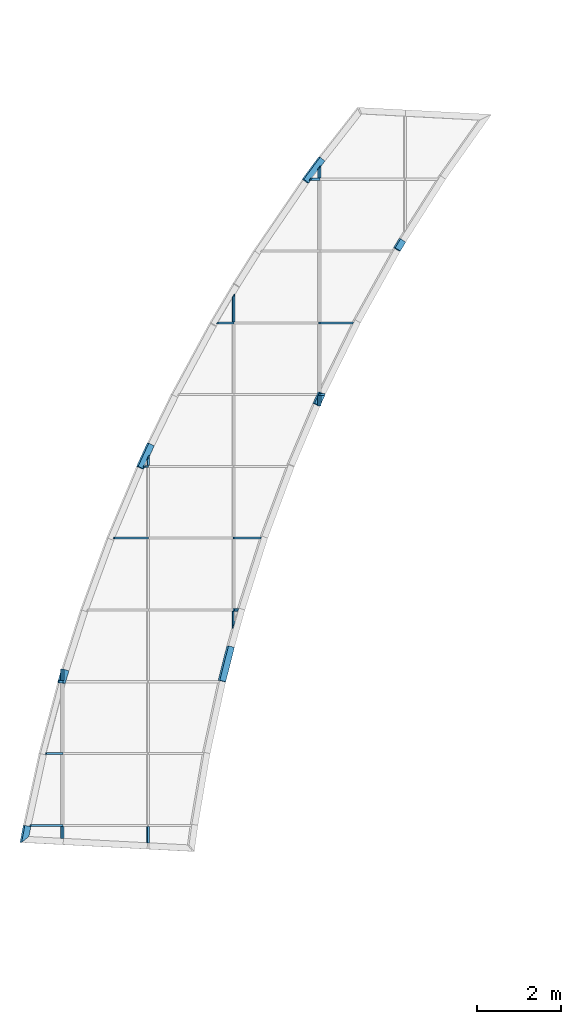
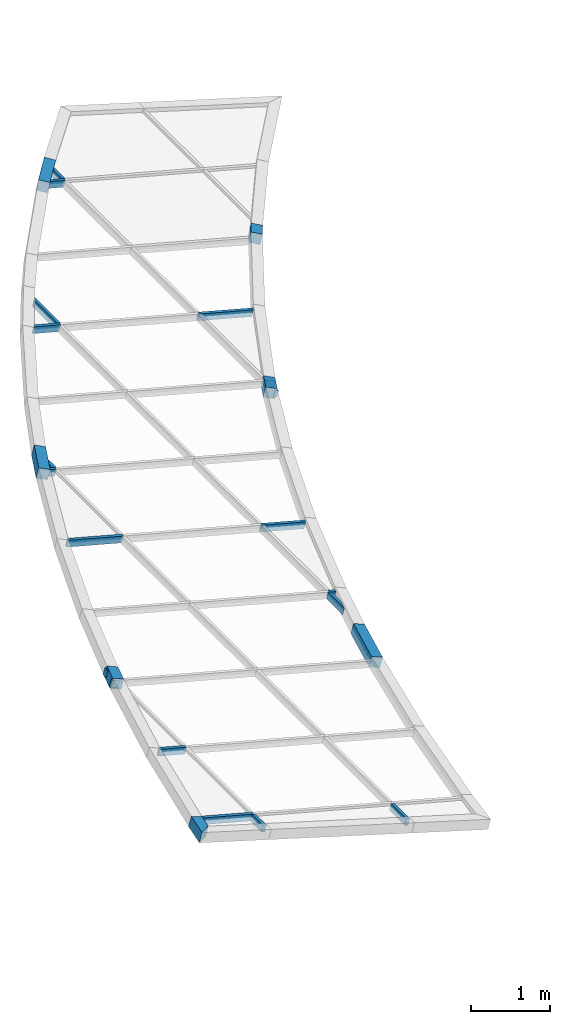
# One storey, part 10 of 33: 26 members, 1 element without a shape of its own.
"""IFC2X3 building model written with IfcOpenShell, lengths in millimetres."""

from ifc_helpers import new_model, entity, si_unit, converted_unit, derived_unit, direction, frame, frame_2d, origin, origin_2d_with_axis, place, context, subcontext, project, spatial, polyline, rectangle, extrude, clip, halfspace, bounded_halfspace, source, transform, mapped, material, type_object, type_shapes, element, aggregate, save


model = new_model("IFC2X3")

# Units and contexts
model_context = context("Model", 3, precision=0.01, world=origin(), true_north=direction((6.12303176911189e-17, 1.0)))
body_context = subcontext(model_context, "Body", "Model", "MODEL_VIEW")
ifc_project = project(units=[si_unit("LENGTHUNIT", "METRE", prefix="MILLI"), si_unit("AREAUNIT", "SQUARE_METRE"), si_unit("VOLUMEUNIT", "CUBIC_METRE"), converted_unit("PLANEANGLEUNIT", "DEGREE", entity("IfcRatioMeasure", 0.0174532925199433), si_unit("PLANEANGLEUNIT", "RADIAN"), dimensions=[0, 0, 0, 0, 0, 0, 0]), si_unit("MASSUNIT", "GRAM", prefix="KILO"), derived_unit("MASSDENSITYUNIT", [(si_unit("MASSUNIT", "GRAM", prefix="KILO"), 1), (si_unit("LENGTHUNIT", "METRE"), -3)]), si_unit("TIMEUNIT", "SECOND"), si_unit("FREQUENCYUNIT", "HERTZ"), si_unit("THERMODYNAMICTEMPERATUREUNIT", "DEGREE_CELSIUS"), derived_unit("THERMALTRANSMITTANCEUNIT", [(si_unit("MASSUNIT", "GRAM", prefix="KILO"), 1), (si_unit("THERMODYNAMICTEMPERATUREUNIT", "KELVIN"), -1), (si_unit("TIMEUNIT", "SECOND"), -3)]), derived_unit("VOLUMETRICFLOWRATEUNIT", [(si_unit("LENGTHUNIT", "METRE"), 3), (si_unit("TIMEUNIT", "SECOND"), -1)]), si_unit("ELECTRICCURRENTUNIT", "AMPERE"), si_unit("ELECTRICVOLTAGEUNIT", "VOLT"), si_unit("POWERUNIT", "WATT"), si_unit("FORCEUNIT", "NEWTON", prefix="KILO"), si_unit("ILLUMINANCEUNIT", "LUX"), si_unit("LUMINOUSFLUXUNIT", "LUMEN"), si_unit("LUMINOUSINTENSITYUNIT", "CANDELA"), derived_unit("USERDEFINED", [(si_unit("MASSUNIT", "GRAM", prefix="KILO"), -1), (si_unit("LENGTHUNIT", "METRE"), -2), (si_unit("TIMEUNIT", "SECOND"), 3), (si_unit("LUMINOUSFLUXUNIT", "LUMEN"), 1)]), derived_unit("LINEARVELOCITYUNIT", [(si_unit("LENGTHUNIT", "METRE"), 1), (si_unit("TIMEUNIT", "SECOND"), -1)]), si_unit("PRESSUREUNIT", "PASCAL"), derived_unit("USERDEFINED", [(si_unit("LENGTHUNIT", "METRE"), -2), (si_unit("MASSUNIT", "GRAM", prefix="KILO"), 1), (si_unit("TIMEUNIT", "SECOND"), -2)])], contexts=[model_context])

# Site, building, storey
site_placement = place(None, origin())
site = spatial("IfcSite", under=ifc_project, at=site_placement, Name="表面", CompositionType="ELEMENT")
building_placement = place(site_placement, origin())
building = spatial("IfcBuilding", under=site, at=building_placement, CompositionType="ELEMENT")
storey_placement = place(building_placement, frame((0.0, 0.0, 6000.0)))
storey = spatial("IfcBuildingStorey", under=building, at=storey_placement, Name="3F", CompositionType="ELEMENT", Elevation=6000.00000000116)

# Curtain wall, members
curtain_wall_type = type_object("IfcCurtainWallType", Name="幕墙系统:1700 x 2100mm", PredefinedType="NOTDEFINED")
curtain_wall_placement = place(storey_placement, frame((0.0, 0.0, -6000.0)))
curtain_wall = element("IfcCurtainWall", 1, at=curtain_wall_placement, inside=storey, type_object=curtain_wall_type, Name="幕墙系统:1700 x 2100mm", ObjectType="幕墙系统:1700 x 2100mm")
ifc_material_1 = material(Name="木质 - 木材")
member_type_1 = type_object("IfcMemberType", Name="200 x 150mm", PredefinedType="MEMBER")
shared_shape_1 = source(origin(), body_context, "Body", "Clipping", [
    clip(clip(extrude(rectangle(XDim=150.0, YDim=150.0, at=frame_2d((0.0, -1.4210854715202e-14), x_axis=(1.0, 0.0))), frame((-75.0, 0.0, -250.729494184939), z_axis=(0.0, 0.0, 1.0), x_axis=(0.0, -1.0, 0.0)), (0.0, 0.0, 1.0), 253.001877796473), halfspace(frame((0.0, 304.8, -248.643862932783), z_axis=(0.0139028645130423, 0.0, -0.999903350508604), x_axis=(0.999903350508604, 0.0, 0.0139028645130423)), False)), halfspace(frame((0.0, 304.8, 0.0), z_axis=(0.015147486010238, 0.0, 0.999885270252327), x_axis=(0.999885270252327, 0.0, -0.015147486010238)), False)),
])
type_shapes(member_type_1, [shared_shape_1])
member_1_placement = place(storey_placement, frame((-35008.2856772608, -294.372686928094, 1216.26865272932), z_axis=(-0.507435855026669, -0.850894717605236, 0.135967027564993), x_axis=(0.821901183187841, -0.525336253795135, -0.220227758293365)))
member_1 = element("IfcMember", 2, at=member_1_placement, type_object=member_type_1, material=ifc_material_1, Name="矩形竖梃:200 x 150mm", ObjectType="200 x 150mm", context=body_context, shape_type="MappedRepresentation", body=[
    mapped(shared_shape_1, transform((0.0, 0.0, 0.0), scale=1.0)),
])
member_type_2 = type_object("IfcMemberType", Name="200 x 150mm", PredefinedType="MEMBER")
shared_shape_2 = source(origin(), body_context, "Body", "Clipping", [
    clip(clip(extrude(rectangle(XDim=150.0, YDim=150.0, at=frame_2d((-7.105427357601e-15, -1.4210854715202e-14), x_axis=(1.0, 0.0))), frame((-75.0, 0.0, -841.986050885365), z_axis=(0.0, 0.0, 1.0), x_axis=(0.0, -1.0, 0.0)), (0.0, 0.0, 1.0), 844.640764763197), halfspace(frame((0.0, 304.800000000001, -840.173286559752), z_axis=(0.0120842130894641, 0.0, -0.99992698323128), x_axis=(0.99992698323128, 0.0, 0.0120842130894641)), False)), halfspace(frame((0.0, 304.8, 0.0), z_axis=(0.0176953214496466, 0.0, 0.999843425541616), x_axis=(0.999843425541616, 0.0, -0.0176953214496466)), False)),
])
type_shapes(member_type_2, [shared_shape_2])
member_2_placement = place(storey_placement, frame((-39145.1803416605, -10494.3726869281, 2324.74623722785), z_axis=(-0.24539819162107, -0.967189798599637, 0.0657542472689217), x_axis=(0.934233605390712, -0.254054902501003, -0.250327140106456)))
member_2 = element("IfcMember", 3, at=member_2_placement, type_object=member_type_2, material=ifc_material_1, Name="矩形竖梃:200 x 150mm", ObjectType="200 x 150mm", context=body_context, shape_type="MappedRepresentation", body=[
    mapped(shared_shape_2, transform((0.0, 0.0, 0.0), scale=1.0)),
])
member_type_3 = type_object("IfcMemberType", Name="200 x 150mm", PredefinedType="MEMBER")
shared_shape_3 = source(origin(), body_context, "Body", "Clipping", [
    clip(clip(extrude(rectangle(XDim=150.0, YDim=150.0, at=frame_2d((-7.105427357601e-15, 3.5527136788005e-14), x_axis=(1.0, 0.0))), frame((-75.0, 0.0, -299.632134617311), z_axis=(0.0, 0.0, 1.0), x_axis=(0.0, -1.0, 0.0)), (0.0, 0.0, 1.0), 301.544242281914), halfspace(frame((0.0, 304.8, -297.366789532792), z_axis=(0.0151005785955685, 0.0, -0.999885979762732), x_axis=(0.999885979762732, 0.0, 0.0151005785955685)), False)), halfspace(frame((0.0, 304.8, 0.0), z_axis=(0.0127463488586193, 0.0, 0.999918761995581), x_axis=(0.999918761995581, 0.0, -0.0127463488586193)), False)),
])
type_shapes(member_type_3, [shared_shape_3])
member_3_placement = place(storey_placement, frame((-36910.5591012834, -3963.46701655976, 1725.98128047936), z_axis=(-0.411072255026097, -0.904923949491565, 0.110146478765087), x_axis=(0.874089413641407, -0.425573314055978, -0.234211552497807)))
member_3 = element("IfcMember", 4, at=member_3_placement, type_object=member_type_3, material=ifc_material_1, Name="矩形竖梃:200 x 150mm", ObjectType="200 x 150mm", context=body_context, shape_type="MappedRepresentation", body=[
    mapped(shared_shape_3, transform((0.0, 0.0, 0.0), scale=1.0)),
])
member_type_4 = type_object("IfcMemberType", Name="200 x 150mm", PredefinedType="MEMBER")
shared_shape_4 = source(origin(), body_context, "Body", "Clipping", [
    clip(clip(extrude(rectangle(XDim=150.0, YDim=150.0, at=origin_2d_with_axis()), frame((-75.0, 0.0, -413.468004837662), z_axis=(0.0, 0.0, 1.0), x_axis=(0.0, -1.0, 0.0)), (0.0, 0.0, 1.0), 413.46800483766), halfspace(frame((0.0, -304.799999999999, -413.468004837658), z_axis=(-0.755376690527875, 0.0, -0.655290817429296), x_axis=(-0.655290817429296, 0.0, 0.755376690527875)), False)), halfspace(frame((0.0, -304.8, 0.0), z_axis=(-0.0142015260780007, 0.0, 0.999899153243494), x_axis=(-0.999899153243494, 0.0, -0.0142015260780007)), False)),
])
type_shapes(member_type_4, [shared_shape_4])
placement = place(building_placement, frame((0.0, 0.0, 9000.0)))
member_4_placement = place(placement, frame((-43901.6459743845, -13894.3726869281, 599.237362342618), z_axis=(0.184548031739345, 0.981578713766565, -0.0494494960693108), x_axis=(-0.948132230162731, 0.191058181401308, 0.254051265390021)))
member_4 = element("IfcMember", 5, at=member_4_placement, type_object=member_type_4, material=ifc_material_1, Name="矩形竖梃:200 x 150mm", ObjectType="200 x 150mm", context=body_context, shape_type="MappedRepresentation", body=[
    mapped(shared_shape_4, transform((0.0, 0.0, 0.0), scale=1.0)),
])
member_type_5 = type_object("IfcMemberType", Name="200 x 150mm", PredefinedType="MEMBER")
shared_shape_5 = source(origin(), body_context, "Body", "Clipping", [
    clip(clip(extrude(rectangle(XDim=150.0, YDim=150.0, at=frame_2d((-7.105427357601e-15, 1.4210854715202e-14), x_axis=(1.0, 0.0))), frame((-75.0, 0.0, -658.268199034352), z_axis=(0.0, 0.0, 1.0), x_axis=(0.0, -1.0, 0.0)), (0.0, 0.0, 1.0), 658.268199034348), halfspace(frame((0.0, -304.800000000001, -658.268199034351), z_axis=(-0.0180534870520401, 0.0, -0.999837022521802), x_axis=(-0.999837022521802, 0.0, 0.0180534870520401)), False)), halfspace(frame((0.0, -304.8, 0.0), z_axis=(-0.0143069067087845, 0.0, 0.999897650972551), x_axis=(-0.999897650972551, 0.0, -0.0143069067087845)), False)),
])
type_shapes(member_type_5, [shared_shape_5])
member_5_placement = place(storey_placement, frame((-36910.5591012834, 1929.01387802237, 1725.98128047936), z_axis=(0.585817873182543, 0.795096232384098, -0.156969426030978), x_axis=(-0.768003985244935, 0.606483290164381, 0.205786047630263)))
member_5 = element("IfcMember", 6, at=member_5_placement, type_object=member_type_5, material=ifc_material_1, Name="矩形竖梃:200 x 150mm", ObjectType="200 x 150mm", context=body_context, shape_type="MappedRepresentation", body=[
    mapped(shared_shape_5, transform((0.0, 0.0, 0.0), scale=1.0)),
])
member_type_6 = type_object("IfcMemberType", Name="200 x 150mm", PredefinedType="MEMBER")
shared_shape_6 = source(origin(), body_context, "Body", "Clipping", [
    clip(clip(extrude(rectangle(XDim=150.0, YDim=150.0, at=frame_2d((0.0, -1.4210854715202e-14), x_axis=(1.0, 0.0))), frame((-75.0, 0.0, -609.557783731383), z_axis=(0.0, 0.0, 1.0), x_axis=(0.0, -1.0, 0.0)), (0.0, 0.0, 1.0), 609.557783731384), halfspace(frame((0.0, -304.8, -609.557783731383), z_axis=(-0.0162241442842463, 0.0, -0.999868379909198), x_axis=(-0.999868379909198, 0.0, 0.0162241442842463)), False)), halfspace(frame((0.0, -304.8, 0.0), z_axis=(-0.0124919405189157, 0.0, 0.999921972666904), x_axis=(-0.999921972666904, 0.0, -0.0124919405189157)), False)),
])
type_shapes(member_type_6, [shared_shape_6])
member_6_placement = place(storey_placement, frame((-40967.4475716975, -4843.36777402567, 2813.02126990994), z_axis=(0.413082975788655, 0.903942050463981, -0.110685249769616), x_axis=(-0.873140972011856, 0.42765496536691, 0.233957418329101)))
member_6 = element("IfcMember", 7, at=member_6_placement, type_object=member_type_6, material=ifc_material_1, Name="矩形竖梃:200 x 150mm", ObjectType="200 x 150mm", context=body_context, shape_type="MappedRepresentation", body=[
    mapped(shared_shape_6, transform((0.0, 0.0, 0.0), scale=1.0)),
])
member_type_7 = type_object("IfcMemberType", Name="200 x 150mm", PredefinedType="MEMBER")
shared_shape_7 = source(origin(), body_context, "Body", "Clipping", [
    clip(clip(extrude(rectangle(XDim=150.0, YDim=150.0, at=frame_2d((7.105427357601e-15, -1.4210854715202e-14), x_axis=(1.0, 0.0))), frame((-75.0, 0.0, -316.309727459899), z_axis=(0.0, 0.0, 1.0), x_axis=(0.0, -1.0, 0.0)), (0.0, 0.0, 1.0), 316.309727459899), halfspace(frame((0.0, -304.8, -316.309727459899), z_axis=(-0.0136941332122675, 0.0, -0.999906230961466), x_axis=(-0.999906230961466, 0.0, 0.0136941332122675)), False)), halfspace(frame((0.0, -304.8, 0.0), z_axis=(-0.0117739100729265, 0.0, 0.999930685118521), x_axis=(-0.999930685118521, 0.0, -0.0117739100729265)), False)),
])
type_shapes(member_type_7, [shared_shape_7])
member_7_placement = place(placement, frame((-42995.8918069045, -10191.6544195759, 356.541264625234), z_axis=(0.28010407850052, 0.957031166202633, -0.0750536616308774), x_axis=(-0.92442111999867, 0.289985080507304, 0.247697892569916)))
member_7 = element("IfcMember", 8, at=member_7_placement, type_object=member_type_7, material=ifc_material_1, Name="矩形竖梃:200 x 150mm", ObjectType="200 x 150mm", context=body_context, shape_type="MappedRepresentation", body=[
    mapped(shared_shape_7, transform((0.0, 0.0, 0.0), scale=1.0)),
])
ifc_material_2 = material(Name="金属 - 铝")
member_type_8 = type_object("IfcMemberType", Name="50 x 100mm", PredefinedType="MEMBER")
shared_shape_8 = source(origin(), body_context, "Body", "Clipping", [
    clip(extrude(rectangle(XDim=100.0, YDim=50.0, at=origin_2d_with_axis()), frame((0.0, 0.0, -498.386564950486), z_axis=(0.0, 0.0, 1.0), x_axis=(0.0, -1.0, 0.0)), (0.0, 0.0, 1.0), 283.833919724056), halfspace(frame((-117.962766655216, 75.0, -92.6789733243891), z_axis=(0.795096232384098, 0.0, 0.606483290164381), x_axis=(0.606483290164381, 0.0, -0.795096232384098)), False)),
])
type_shapes(member_type_8, [shared_shape_8])
member_8_placement = place(storey_placement, frame((-36910.5591012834, 1929.01387802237, 1725.98128047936), z_axis=(0.0, 1.0, 0.0), x_axis=(-0.965925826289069, 0.0, 0.258819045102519)))
member_8 = element("IfcMember", 9, at=member_8_placement, type_object=member_type_8, material=ifc_material_2, Name="矩形竖梃:50 x 100mm", ObjectType="50 x 100mm", context=body_context, shape_type="MappedRepresentation", body=[
    mapped(shared_shape_8, transform((0.0, 0.0, 0.0), scale=1.0)),
])
member_type_9 = type_object("IfcMemberType", Name="50 x 100mm", PredefinedType="MEMBER")
shared_shape_9 = source(origin(), body_context, "Body", "SweptSolid", [
    extrude(rectangle(XDim=100.0, YDim=50.0, at=origin_2d_with_axis()), frame((0.0, 0.0, -244.094329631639), z_axis=(0.0, 0.0, 1.0), x_axis=(0.0, -1.0, 0.0)), (0.0, 0.0, 1.0), 244.094329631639),
])
type_shapes(member_type_9, [shared_shape_9])
member_9_placement = place(storey_placement, frame((-36910.5591012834, -3719.37268692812, 1725.98128047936), z_axis=(0.0, 1.0, 0.0), x_axis=(-0.965925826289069, 0.0, 0.258819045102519)))
member_9 = element("IfcMember", 10, at=member_9_placement, type_object=member_type_9, material=ifc_material_2, Name="矩形竖梃:50 x 100mm", ObjectType="50 x 100mm", context=body_context, shape_type="MappedRepresentation", body=[
    mapped(shared_shape_9, transform((0.0, 0.0, 0.0), scale=1.0)),
])
member_type_10 = type_object("IfcMemberType", Name="50 x 100mm", PredefinedType="MEMBER")
shared_shape_10 = source(origin(), body_context, "Body", "Clipping", [
    clip(extrude(rectangle(XDim=100.0, YDim=50.0, at=origin_2d_with_axis()), frame((0.0, 0.0, -907.359284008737), z_axis=(0.0, 0.0, 1.0), x_axis=(0.0, -1.0, 0.0)), (0.0, 0.0, 1.0), 660.990668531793), halfspace(frame((-126.876412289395, 75.0, -80.0394679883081), z_axis=(0.852754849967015, 0.0, 0.52231136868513), x_axis=(0.52231136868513, 0.0, -0.852754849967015)), False)),
])
type_shapes(member_type_10, [shared_shape_10])
member_10_placement = place(storey_placement, frame((-38939.0033364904, -1062.01340291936, 2269.50127519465), z_axis=(0.0, 1.0, 0.0), x_axis=(-0.965925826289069, 0.0, 0.258819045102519)))
member_10 = element("IfcMember", 11, at=member_10_placement, type_object=member_type_10, material=ifc_material_2, Name="矩形竖梃:50 x 100mm", ObjectType="50 x 100mm", context=body_context, shape_type="MappedRepresentation", body=[
    mapped(shared_shape_10, transform((0.0, 0.0, 0.0), scale=1.0)),
])
member_type_11 = type_object("IfcMemberType", Name="50 x 100mm", PredefinedType="MEMBER")
shared_shape_11 = source(origin(), body_context, "Body", "Clipping", [
    clip(extrude(rectangle(XDim=100.0, YDim=50.0, at=origin_2d_with_axis()), frame((0.0, 0.0, -408.169835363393), z_axis=(0.0, 0.0, 1.0), x_axis=(0.0, -1.0, 0.0)), (0.0, 0.0, 1.0), 408.169835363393), halfspace(frame((144.617928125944, 75.0, -822.531445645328), z_axis=(-0.960767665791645, 0.0, -0.27735445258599), x_axis=(-0.27735445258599, 0.0, 0.960767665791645)), False)),
])
type_shapes(member_type_11, [shared_shape_11])
member_11_placement = place(storey_placement, frame((-38939.0033364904, -8819.3726869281, 2269.50127519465), z_axis=(0.0, 1.0, 0.0), x_axis=(-0.965925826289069, 0.0, 0.258819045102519)))
member_11 = element("IfcMember", 12, at=member_11_placement, type_object=member_type_11, material=ifc_material_2, Name="矩形竖梃:50 x 100mm", ObjectType="50 x 100mm", context=body_context, shape_type="MappedRepresentation", body=[
    mapped(shared_shape_11, transform((0.0, 0.0, 0.0), scale=1.0)),
])
member_type_12 = type_object("IfcMemberType", Name="50 x 100mm", PredefinedType="MEMBER")
shared_shape_12 = source(origin(), body_context, "Body", "Clipping", [
    clip(extrude(rectangle(XDim=100.0, YDim=50.0, at=origin_2d_with_axis()), frame((0.0, 0.0, -526.004912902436), z_axis=(0.0, 0.0, 1.0), x_axis=(0.0, -1.0, 0.0)), (0.0, 0.0, 1.0), 228.097817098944), halfspace(frame((-134.789908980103, 75.0, -65.8421755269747), z_axis=(0.903942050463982, 0.0, 0.427654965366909), x_axis=(0.427654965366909, 0.0, -0.903942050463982)), False)),
])
type_shapes(member_type_12, [shared_shape_12])
member_12_placement = place(storey_placement, frame((-40967.4475716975, -4843.36777402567, 2813.02126990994), z_axis=(0.0, 1.0, 0.0), x_axis=(-0.965925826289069, 0.0, 0.258819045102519)))
member_12 = element("IfcMember", 13, at=member_12_placement, type_object=member_type_12, material=ifc_material_2, Name="矩形竖梃:50 x 100mm", ObjectType="50 x 100mm", context=body_context, shape_type="MappedRepresentation", body=[
    mapped(shared_shape_12, transform((0.0, 0.0, 0.0), scale=1.0)),
])
member_type_13 = type_object("IfcMemberType", Name="50 x 100mm", PredefinedType="MEMBER")
shared_shape_13 = source(origin(), body_context, "Body", "Clipping", [
    clip(clip(extrude(rectangle(XDim=100.0, YDim=50.0, at=origin_2d_with_axis()), frame((0.0, 0.0, -389.698654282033), z_axis=(0.0, 0.0, 1.0), x_axis=(0.0, -1.0, 0.0)), (0.0, 0.0, 1.0), 389.698654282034), bounded_halfspace(frame((-7.58359352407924, 75.0, -388.817000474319), z_axis=(0.0505572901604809, 0.0, -0.99872116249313), x_axis=(-0.99872116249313, 0.0, -0.0505572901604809)), False, frame((0.0, 0.0, -389.698654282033), z_axis=(0.0, 0.0, 1.0), x_axis=(0.0, -1.0, 0.0)), polyline([(50.0, -7.58359352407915), (50.0, -25.0), (-50.0, -25.0), (-50.0, -7.58359352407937), (50.0, -7.58359352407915)]))), bounded_halfspace(frame((2092.41640647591, 75.0, -282.510742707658), z_axis=(0.0505572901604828, 0.0, -0.99872116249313), x_axis=(-0.99872116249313, 0.0, -0.0505572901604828)), False, frame((0.0, 0.0, -389.698654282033), z_axis=(0.0, 0.0, 1.0), x_axis=(0.0, -1.0, 0.0)), polyline([(-50.0, 25.0), (50.0, 25.0), (50.0, -7.5835935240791), (-50.0, -7.58359352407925), (-50.0, 25.0)]))),
])
type_shapes(member_type_13, [shared_shape_13])
member_13_placement = place(storey_placement, frame((-40967.4475716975, -13919.3726869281, 2813.02126990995), z_axis=(0.0, 1.0, 0.0), x_axis=(-0.965925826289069, 0.0, 0.258819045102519)))
member_13 = element("IfcMember", 14, at=member_13_placement, type_object=member_type_13, material=ifc_material_2, Name="矩形竖梃:50 x 100mm", ObjectType="50 x 100mm", context=body_context, shape_type="MappedRepresentation", body=[
    mapped(shared_shape_13, transform((0.0, 0.0, 0.0), scale=1.0)),
])
member_type_14 = type_object("IfcMemberType", Name="50 x 100mm", PredefinedType="MEMBER")
shared_shape_14 = source(origin(), body_context, "Body", "SweptSolid", [
    extrude(rectangle(XDim=100.0, YDim=50.0, at=origin_2d_with_axis()), frame((0.0, 0.0, -277.718267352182), z_axis=(0.0, 0.0, 1.0), x_axis=(0.0, -1.0, 0.0)), (0.0, 0.0, 1.0), 277.718267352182),
])
type_shapes(member_type_14, [shared_shape_14])
member_14_placement = place(placement, frame((-42995.8918069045, -10191.6544195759, 356.541264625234), z_axis=(0.0, 1.0, 0.0), x_axis=(-0.965925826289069, 0.0, 0.258819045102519)))
member_14 = element("IfcMember", 15, at=member_14_placement, type_object=member_type_14, material=ifc_material_2, Name="矩形竖梃:50 x 100mm", ObjectType="50 x 100mm", context=body_context, shape_type="MappedRepresentation", body=[
    mapped(shared_shape_14, transform((0.0, 0.0, 0.0), scale=1.0)),
])
member_type_15 = type_object("IfcMemberType", Name="50 x 100mm", PredefinedType="MEMBER")
shared_shape_15 = source(origin(), body_context, "Body", "Clipping", [
    clip(clip(extrude(rectangle(XDim=100.0, YDim=50.0, at=origin_2d_with_axis()), frame((0.0, 0.0, -283.39239651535), z_axis=(0.0, 0.0, 1.0), x_axis=(0.0, -1.0, 0.0)), (0.0, 0.0, 1.0), 283.392396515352), bounded_halfspace(frame((-7.58359352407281, 75.0, -282.510742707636), z_axis=(0.0505572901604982, 0.0, -0.998721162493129), x_axis=(-0.998721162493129, 0.0, -0.0505572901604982)), False, frame((0.0, 0.0, -283.39239651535), z_axis=(0.0, 0.0, 1.0), x_axis=(0.0, -1.0, 0.0)), polyline([(50.0, -7.58359352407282), (50.0, -25.0), (-50.0, -25.0), (-50.0, -7.5835935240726), (50.0, -7.58359352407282)]))), bounded_halfspace(frame((1009.11856644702, 75.0, -231.043217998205), z_axis=(0.0505572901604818, 0.0, -0.99872116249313), x_axis=(-0.99872116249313, 0.0, -0.0505572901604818)), False, frame((0.0, 0.0, -283.39239651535), z_axis=(0.0, 0.0, 1.0), x_axis=(0.0, -1.0, 0.0)), polyline([(-50.0, 25.0), (50.0, 25.0), (50.0, -7.58359352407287), (-50.0, -7.58359352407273), (-50.0, 25.0)]))),
])
type_shapes(member_type_15, [shared_shape_15])
member_15_placement = place(placement, frame((-42995.8918069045, -13919.3726869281, 356.541264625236), z_axis=(0.0, 1.0, 0.0), x_axis=(-0.965925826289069, 0.0, 0.258819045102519)))
member_15 = element("IfcMember", 16, at=member_15_placement, type_object=member_type_15, material=ifc_material_2, Name="矩形竖梃:50 x 100mm", ObjectType="50 x 100mm", context=body_context, shape_type="MappedRepresentation", body=[
    mapped(shared_shape_15, transform((0.0, 0.0, 0.0), scale=1.0)),
])
member_type_16 = type_object("IfcMemberType", Name="50 x 100mm", PredefinedType="MEMBER")
shared_shape_16 = source(origin(), body_context, "Body", "Clipping", [
    clip(extrude(rectangle(XDim=100.0, YDim=50.0, at=origin_2d_with_axis()), frame((0.0, 0.0, -399.228663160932), z_axis=(0.0, 0.0, 1.0), x_axis=(0.0, -1.0, 0.0)), (0.0, 0.0, 1.0), 229.641747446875), halfspace(frame((-432.414071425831, 75.0, -518.493098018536), z_axis=(-0.606483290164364, 0.0, 0.795096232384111), x_axis=(0.795096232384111, 0.0, 0.606483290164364)), False)),
])
type_shapes(member_type_16, [shared_shape_16])
member_16_placement = place(storey_placement, frame((-37296.1843776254, 1405.62731307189, 1829.30926185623), z_axis=(-0.965925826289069, 0.0, 0.258819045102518), x_axis=(0.0, -1.0, 0.0)))
member_16 = element("IfcMember", 17, at=member_16_placement, type_object=member_type_16, material=ifc_material_2, Name="矩形竖梃:50 x 100mm", ObjectType="50 x 100mm", context=body_context, shape_type="MappedRepresentation", body=[
    mapped(shared_shape_16, transform((0.0, 0.0, 0.0), scale=1.0)),
])
member_type_17 = type_object("IfcMemberType", Name="50 x 100mm", PredefinedType="MEMBER")
shared_shape_17 = source(origin(), body_context, "Body", "Clipping", [
    clip(extrude(rectangle(XDim=100.0, YDim=50.0, at=origin_2d_with_axis()), frame((0.0, 0.0, -571.068993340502), z_axis=(0.0, 0.0, 1.0), x_axis=(0.0, -1.0, 0.0)), (0.0, 0.0, 1.0), 410.480969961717), halfspace(frame((-854.012578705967, 75.0, -698.982220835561), z_axis=(-0.522311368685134, 0.0, 0.852754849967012), x_axis=(0.852754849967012, 0.0, 0.522311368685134)), False)),
])
type_shapes(member_type_17, [shared_shape_17])
member_17_placement = place(storey_placement, frame((-39490.6136257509, -1994.3726869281, 2417.3048067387), z_axis=(-0.965925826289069, 0.0, 0.25881904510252), x_axis=(0.0, -1.0, 0.0)))
member_17 = element("IfcMember", 18, at=member_17_placement, type_object=member_type_17, material=ifc_material_2, Name="矩形竖梃:50 x 100mm", ObjectType="50 x 100mm", context=body_context, shape_type="MappedRepresentation", body=[
    mapped(shared_shape_17, transform((0.0, 0.0, 0.0), scale=1.0)),
])
member_type_18 = type_object("IfcMemberType", Name="50 x 100mm", PredefinedType="MEMBER")
shared_shape_18 = source(origin(), body_context, "Body", "Clipping", [
    clip(extrude(rectangle(XDim=100.0, YDim=50.0, at=origin_2d_with_axis()), frame((0.0, 0.0, -260.68041289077), z_axis=(0.0, 0.0, 1.0), x_axis=(0.0, -1.0, 0.0)), (0.0, 0.0, 1.0), 106.568071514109), halfspace(frame((-486.856668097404, 75.0, -396.271720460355), z_axis=(-0.42765496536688, 0.0, 0.903942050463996), x_axis=(0.903942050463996, 0.0, 0.42765496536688)), False)),
])
type_shapes(member_type_18, [shared_shape_18])
member_18_placement = place(storey_placement, frame((-41219.2455149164, -5394.3726869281, 2880.49032545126), z_axis=(-0.96592582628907, 0.0, 0.258819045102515), x_axis=(0.0, -1.0, 0.0)))
member_18 = element("IfcMember", 19, at=member_18_placement, type_object=member_type_18, material=ifc_material_2, Name="矩形竖梃:50 x 100mm", ObjectType="50 x 100mm", context=body_context, shape_type="MappedRepresentation", body=[
    mapped(shared_shape_18, transform((0.0, 0.0, 0.0), scale=1.0)),
])
member_type_19 = type_object("IfcMemberType", Name="50 x 100mm", PredefinedType="MEMBER")
shared_shape_19 = source(origin(), body_context, "Body", "Clipping", [
    clip(extrude(rectangle(XDim=100.0, YDim=50.0, at=origin_2d_with_axis()), frame((0.0, 0.0, -998.436518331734), z_axis=(0.0, 0.0, 1.0), x_axis=(0.0, -1.0, 0.0)), (0.0, 0.0, 1.0), 845.769801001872), halfspace(frame((-1640.2846525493, 75.0, -875.357258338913), z_axis=(-0.398102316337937, 0.0, 0.917341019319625), x_axis=(0.917341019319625, 0.0, 0.398102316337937)), False)),
])
type_shapes(member_type_19, [shared_shape_19])
member_19_placement = place(storey_placement, frame((-41931.8631906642, -7094.37268692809, 3071.43565618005), z_axis=(-0.965925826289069, 0.0, 0.258819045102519), x_axis=(0.0, -1.0, 0.0)))
member_19 = element("IfcMember", 20, at=member_19_placement, type_object=member_type_19, material=ifc_material_2, Name="矩形竖梃:50 x 100mm", ObjectType="50 x 100mm", context=body_context, shape_type="MappedRepresentation", body=[
    mapped(shared_shape_19, transform((0.0, 0.0, 0.0), scale=1.0)),
])
member_type_20 = type_object("IfcMemberType", Name="50 x 100mm", PredefinedType="MEMBER")
shared_shape_20 = source(origin(), body_context, "Body", "SweptSolid", [
    extrude(rectangle(XDim=100.0, YDim=50.0, at=origin_2d_with_axis()), frame((0.0, 0.0, -91.7251017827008), z_axis=(0.0, 0.0, 1.0), x_axis=(0.0, -1.0, 0.0)), (0.0, 0.0, 1.0), 91.7251017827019),
])
type_shapes(member_type_20, [shared_shape_20])
member_20_placement = place(placement, frame((-43084.4914516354, -10494.3726869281, 380.281467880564), z_axis=(-0.965925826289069, 0.0, 0.258819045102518), x_axis=(0.0, -1.0, 0.0)))
member_20 = element("IfcMember", 21, at=member_20_placement, type_object=member_type_20, material=ifc_material_2, Name="矩形竖梃:50 x 100mm", ObjectType="50 x 100mm", context=body_context, shape_type="MappedRepresentation", body=[
    mapped(shared_shape_20, transform((0.0, 0.0, 0.0), scale=1.0)),
])
member_type_21 = type_object("IfcMemberType", Name="50 x 100mm", PredefinedType="MEMBER")
shared_shape_21 = source(origin(), body_context, "Body", "Clipping", [
    clip(extrude(rectangle(XDim=100.0, YDim=50.0, at=origin_2d_with_axis()), frame((0.0, 0.0, -556.402841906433), z_axis=(0.0, 0.0, 1.0), x_axis=(0.0, -1.0, 0.0)), (0.0, 0.0, 1.0), 407.733668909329), halfspace(frame((-1660.44989714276, 75.0, -609.3697902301), z_axis=(-0.263667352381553, 0.0, 0.964613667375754), x_axis=(0.964613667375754, 0.0, 0.263667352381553)), False)),
])
type_shapes(member_type_21, [shared_shape_21])
member_21_placement = place(placement, frame((-43533.3356817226, -12194.3726869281, 500.548916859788), z_axis=(-0.965925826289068, 0.0, 0.258819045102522), x_axis=(0.0, -1.0, 0.0)))
member_21 = element("IfcMember", 22, at=member_21_placement, type_object=member_type_21, material=ifc_material_2, Name="矩形竖梃:50 x 100mm", ObjectType="50 x 100mm", context=body_context, shape_type="MappedRepresentation", body=[
    mapped(shared_shape_21, transform((0.0, 0.0, 0.0), scale=1.0)),
])
member_type_22 = type_object("IfcMemberType", Name="50 x 100mm", PredefinedType="MEMBER")
shared_shape_22 = source(origin(), body_context, "Body", "Clipping", [
    clip(extrude(rectangle(XDim=100.0, YDim=50.0, at=origin_2d_with_axis()), frame((0.0, 0.0, -937.705714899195), z_axis=(0.0, 0.0, 1.0), x_axis=(0.0, -1.0, 0.0)), (0.0, 0.0, 1.0), 789.586262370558), halfspace(frame((-1667.17127979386, 75.0, -527.666376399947), z_axis=(-0.218858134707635, 0.0, 0.975756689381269), x_axis=(0.975756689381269, 0.0, 0.218858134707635)), False)),
])
type_shapes(member_type_22, [shared_shape_22])
member_22_placement = place(placement, frame((-43901.6459743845, -13894.3726869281, 599.237362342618), z_axis=(-0.965925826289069, 0.0, 0.258819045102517), x_axis=(0.0, -1.0, 0.0)))
member_22 = element("IfcMember", 23, at=member_22_placement, type_object=member_type_22, material=ifc_material_2, Name="矩形竖梃:50 x 100mm", ObjectType="50 x 100mm", context=body_context, shape_type="MappedRepresentation", body=[
    mapped(shared_shape_22, transform((0.0, 0.0, 0.0), scale=1.0)),
])
member_type_23 = type_object("IfcMemberType", Name="50 x 100mm", PredefinedType="MEMBER")
shared_shape_23 = source(origin(), body_context, "Body", "Clipping", [
    clip(extrude(rectangle(XDim=100.0, YDim=50.0, at=origin_2d_with_axis()), frame((0.0, 0.0, -834.127885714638), z_axis=(0.0, 0.0, 1.0), x_axis=(0.0, -1.0, 0.0)), (0.0, 0.0, 1.0), 834.127885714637), halfspace(frame((1632.09412046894, 75.0, 7.19761689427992), z_axis=(0.452705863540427, 0.0, -0.891659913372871), x_axis=(-0.891659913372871, 0.0, -0.452705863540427)), False)),
])
type_shapes(member_type_23, [shared_shape_23])
member_23_placement = place(storey_placement, frame((-36910.5591012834, -1994.37268692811, 1725.98128047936), z_axis=(-0.965925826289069, 0.0, 0.258819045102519), x_axis=(0.0, -1.0, 0.0)))
member_23 = element("IfcMember", 24, at=member_23_placement, type_object=member_type_23, material=ifc_material_2, Name="矩形竖梃:50 x 100mm", ObjectType="50 x 100mm", context=body_context, shape_type="MappedRepresentation", body=[
    mapped(shared_shape_23, transform((0.0, 0.0, 0.0), scale=1.0)),
])
member_type_24 = type_object("IfcMemberType", Name="50 x 100mm", PredefinedType="MEMBER")
shared_shape_24 = source(origin(), body_context, "Body", "SweptSolid", [
    extrude(rectangle(XDim=100.0, YDim=50.0, at=origin_2d_with_axis()), frame((0.0, 0.0, -126.551370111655), z_axis=(0.0, 0.0, 1.0), x_axis=(0.0, -1.0, 0.0)), (0.0, 0.0, 1.0), 126.551370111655),
])
type_shapes(member_type_24, [shared_shape_24])
member_24_placement = place(storey_placement, frame((-36910.5591012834, -3694.37268692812, 1725.98128047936), z_axis=(-0.965925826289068, 0.0, 0.25881904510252), x_axis=(0.0, -1.0, 0.0)))
member_24 = element("IfcMember", 25, at=member_24_placement, type_object=member_type_24, material=ifc_material_2, Name="矩形竖梃:50 x 100mm", ObjectType="50 x 100mm", context=body_context, shape_type="MappedRepresentation", body=[
    mapped(shared_shape_24, transform((0.0, 0.0, 0.0), scale=1.0)),
])
member_type_25 = type_object("IfcMemberType", Name="50 x 100mm", PredefinedType="MEMBER")
shared_shape_25 = source(origin(), body_context, "Body", "Clipping", [
    clip(extrude(rectangle(XDim=100.0, YDim=50.0, at=origin_2d_with_axis()), frame((0.0, 0.0, -666.491873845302), z_axis=(0.0, 0.0, 1.0), x_axis=(0.0, -1.0, 0.0)), (0.0, 0.0, 1.0), 666.491873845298), halfspace(frame((1653.06798412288, 75.0, -113.703747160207), z_axis=(0.312880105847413, 0.0, -0.94979262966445), x_axis=(-0.94979262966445, 0.0, -0.312880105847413)), False)),
])
type_shapes(member_type_25, [shared_shape_25])
member_25_placement = place(storey_placement, frame((-38939.0033364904, -7094.37268692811, 2269.50127519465), z_axis=(-0.965925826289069, 0.0, 0.258819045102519), x_axis=(0.0, -1.0, 0.0)))
member_25 = element("IfcMember", 26, at=member_25_placement, type_object=member_type_25, material=ifc_material_2, Name="矩形竖梃:50 x 100mm", ObjectType="50 x 100mm", context=body_context, shape_type="MappedRepresentation", body=[
    mapped(shared_shape_25, transform((0.0, 0.0, 0.0), scale=1.0)),
])
member_type_26 = type_object("IfcMemberType", Name="50 x 100mm", PredefinedType="MEMBER")
shared_shape_26 = source(origin(), body_context, "Body", "Clipping", [
    clip(extrude(rectangle(XDim=100.0, YDim=50.0, at=origin_2d_with_axis()), frame((0.0, 0.0, -107.264488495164), z_axis=(0.0, 0.0, 1.0), x_axis=(0.0, -1.0, 0.0)), (0.0, 0.0, 1.0), 107.264488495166), halfspace(frame((845.789800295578, 75.0, 144.115149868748), z_axis=(0.27735445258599, 0.0, -0.960767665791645), x_axis=(-0.960767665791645, 0.0, -0.27735445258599)), False)),
])
type_shapes(member_type_26, [shared_shape_26])
member_26_placement = place(storey_placement, frame((-38939.0033364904, -8794.3726869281, 2269.50127519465), z_axis=(-0.965925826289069, 0.0, 0.258819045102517), x_axis=(0.0, -1.0, 0.0)))
member_26 = element("IfcMember", 27, at=member_26_placement, type_object=member_type_26, material=ifc_material_2, Name="矩形竖梃:50 x 100mm", ObjectType="50 x 100mm", context=body_context, shape_type="MappedRepresentation", body=[
    mapped(shared_shape_26, transform((0.0, 0.0, 0.0), scale=1.0)),
])
aggregate(curtain_wall, [member_1, member_2, member_3, member_4, member_5, member_6, member_7, member_8, member_9, member_10, member_11, member_12, member_13, member_14, member_15, member_16, member_17, member_18, member_19, member_20, member_21, member_22, member_23, member_24, member_25, member_26])

save(model, "model.ifc")
